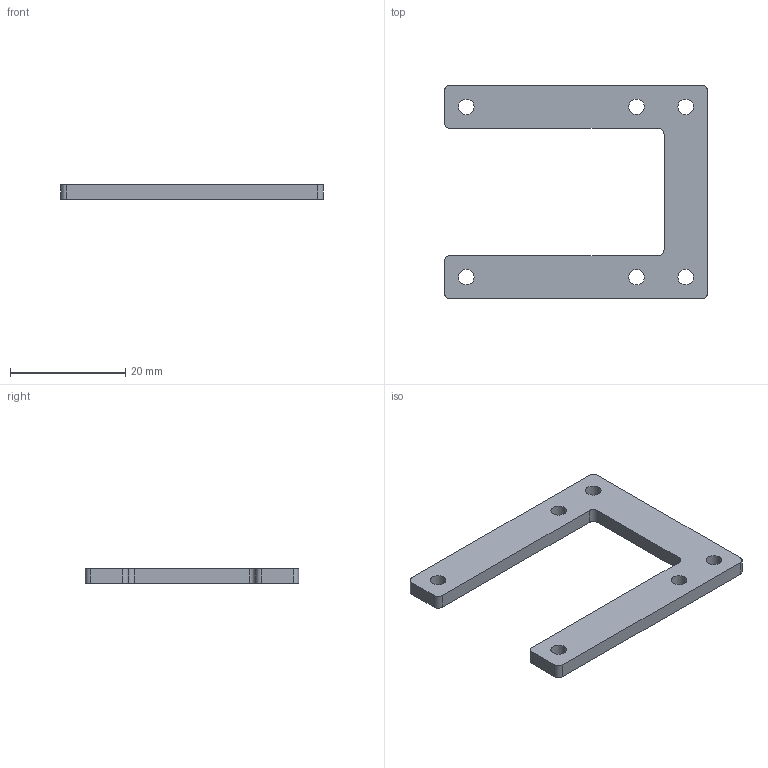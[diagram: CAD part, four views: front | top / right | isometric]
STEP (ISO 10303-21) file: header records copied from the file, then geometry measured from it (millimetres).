
FILE_DESCRIPTION (( 'STEP AP203' ), '1' );
FILE_NAME ('Gimbal Handle Plate (3 clamps RTU) v1.STEP', '2016-10-20T20:50:52', ( 'drhyoo' ), ( '' ), 'SwSTEP 2.0', 'SolidWorks 2016', '' );
FILE_SCHEMA (( 'CONFIG_CONTROL_DESIGN' ));
Length unit declared in the file: millimetre
Products named in the file (1): Gimbal Handle Plate (3 clamps RTU) v1
Bounding box: 45.5 x 37 x 2.5 mm (x, y, z)
Volume: 2030.7 mm3; surface area: 2345.7 mm2
Topology: 1 solids, 1 shells, 30 faces, 84 edges, 56 vertices
Faces by surface type: cylinder 20, plane 10
Entity records: 1089 total; most frequent: DIRECTION 186, CARTESIAN_POINT 171, ORIENTED_EDGE 168, EDGE_CURVE 84, AXIS2_PLACEMENT_3D 71, VERTEX_POINT 56, LINE 44, VECTOR 44
